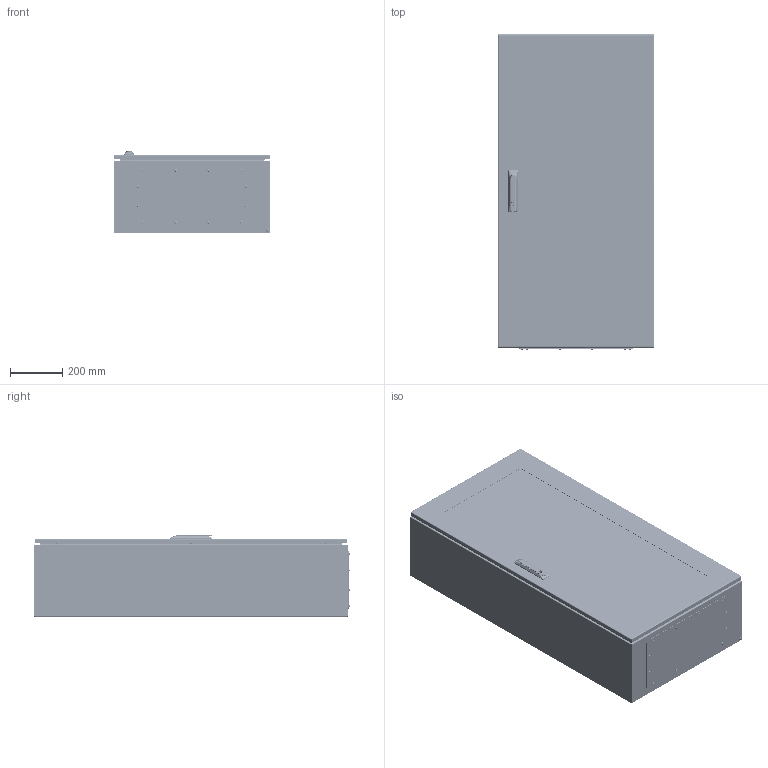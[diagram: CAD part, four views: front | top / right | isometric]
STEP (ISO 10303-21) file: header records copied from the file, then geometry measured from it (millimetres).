
FILE_DESCRIPTION (( 'STEP AP214' ), '1' );
FILE_NAME ('CCV 120.60.30.STEP', '2025-09-19T05:56:53', ( '' ), ( '' ), 'SwSTEP 2.0', 'SolidWorks 2019', '' );
FILE_SCHEMA (( 'AUTOMOTIVE_DESIGN' ));
Length unit declared in the file: millimetre
Products named in the file (36): MPC X.Y Ïàíåëü ìîíòàæíàÿ_MPC 120.60 (2,5); Øïèëüêà çàçåìëåíèÿ Ì6õ17,5_˜¯¨«ìª  § §¥¬«¥­¨ï Œ6å17,5; Essentra_d9.3_055009300003; ÇÀÌÎÊ-ÐÓ×ÊÀ 1413-D53-SS_‡ ªàëâ; Øïèëüêà çàçåìëåíèÿ Ì6õ17,5_˜¯¨«ìª  § §¥¬«¥­¨ï Œ6å17,5 á ª®«¯ çª®¬; Ãàéêà Ì8 DIN 934; CCV X.Y.02.002 栺樏鋋_CCV 120.60; hex flange nut_din_Hexagon Flange Nut DIN 6923 - M6 - N; CCS Y.Z.01.003 Êîðïóñ_ïàíåëü íèæíÿÿ_CCS 60.30; Âñòàâêà ðèãåëÿ S1B4500; Òÿãà ïëîñêàÿ LG006 A=16ìì_120 (‡ ¬®ª-àãçª  1413); pan head cross recess screw_din_DIN EN ISO 7045 - M5 x 6 - Z - 6N; Øïèëüêà Ì6õ13; RG 001-2 Äåðæàòåëü ïëîñêîé òÿãè (ïîëèàìèä); Çàìîê MS8035-1 (1413-D53-RAL7035)_Žâªàëâ; plain washer grade a_din_Washer DIN 125 - A 5.3; pan head cross recess screw_din_DIN EN ISO 7045 - M6 x 16 - Z - 16N; Øïèëüêà Ì8õ25; CCV X.Y.02.001 拟屦黖CCV 120.60; Ïåòëÿ ïðèâàðíàÿ ÷àñòü; KIT_Øòèôò_ô5_Ìîäóëü; CCS X.Y.30(40).01.000ÑÁ Êîðïóñ øêàôà ñâàðíîé_CCS 120.60.30; KIT_Çàæèìíîå êîëüöî_ïîëèîêñèìåòèëåí_ô5_EMKA 1031-U16; Âèíò ðåçüáîâûäàâëèâàþùèé ñ ïîëóïîòàéíîé ãîëîâêîé Ì5õ12; Ïåòëÿ KIT_Ìîäóëü_êîðïóñíàÿ ÷àñòü â ñáîðå; CCS Y.Z.01.002 Êîðïóñ_ïàíåëü âåðõíÿÿ_CCS 60.30; CCV 120.60.30; Ðèãåëü S1B4500 (ïëîñêèé); Essentra_d6,3_1287228; Ïåòëÿ KIT_Ìîäóëü_êîðïóñíàÿ ÷àñòü; hex flange nut_din_Hexagon Flange Nut DIN 6923 - M8 - N; CCV X.Y.02.000蚜 拟屦黖CCV 120.60; PKV Y.22 相礤朦 赅徨朦眍泐 忖钿郷PKV 60.22; CCS X.Y.30(40).01.001 Êîðïóñ_ïàíåëü ñðåäíÿÿ_CCS 120.60.30
Assembly tree (95 placements, depth 3):
  CCV 120.60.30
    CCS X.Y.30(40).01.000ÑÁ Êîðïóñ øêàôà ñâàðíîé_CCS 120.60.30
      CCS X.Y.30(40).01.001 Êîðïóñ_ïàíåëü ñðåäíÿÿ_CCS 120.60.30
      CCS Y.Z.01.003 Êîðïóñ_ïàíåëü íèæíÿÿ_CCS 60.30
      CCS Y.Z.01.002 Êîðïóñ_ïàíåëü âåðõíÿÿ_CCS 60.30
      Øïèëüêà çàçåìëåíèÿ Ì6õ17,5_˜¯¨«ìª  § §¥¬«¥­¨ï Œ6å17,5  x4
      Øïèëüêà Ì8õ25  x6
    Ïåòëÿ KIT_Ìîäóëü_êîðïóñíàÿ ÷àñòü â ñáîðå
      Ïåòëÿ KIT_Ìîäóëü_êîðïóñíàÿ ÷àñòü
      KIT_Øòèôò_ô5_Ìîäóëü
      KIT_Çàæèìíîå êîëüöî_ïîëèîêñèìåòèëåí_ô5_EMKA 1031-U16
    Ïåòëÿ KIT_Ìîäóëü_êîðïóñíàÿ ÷àñòü â ñáîðå
      Ïåòëÿ KIT_Ìîäóëü_êîðïóñíàÿ ÷àñòü
      KIT_Øòèôò_ô5_Ìîäóëü
      KIT_Çàæèìíîå êîëüöî_ïîëèîêñèìåòèëåí_ô5_EMKA 1031-U16
    Ïåòëÿ KIT_Ìîäóëü_êîðïóñíàÿ ÷àñòü â ñáîðå
      Ïåòëÿ KIT_Ìîäóëü_êîðïóñíàÿ ÷àñòü
      KIT_Øòèôò_ô5_Ìîäóëü
      KIT_Çàæèìíîå êîëüöî_ïîëèîêñèìåòèëåí_ô5_EMKA 1031-U16
    CCV X.Y.02.000蚜 拟屦黖CCV 120.60
      CCV X.Y.02.001 拟屦黖CCV 120.60
      Øïèëüêà çàçåìëåíèÿ Ì6õ17,5_˜¯¨«ìª  § §¥¬«¥­¨ï Œ6å17,5 á ª®«¯ çª®¬
      Øïèëüêà Ì6õ13  x4
      CCV X.Y.02.002 栺樏鋋_CCV 120.60
      Ïåòëÿ ïðèâàðíàÿ ÷àñòü  x3
    MPC X.Y Ïàíåëü ìîíòàæíàÿ_MPC 120.60 (2,5)
    pan head cross recess screw_din_DIN EN ISO 7045 - M5 x 6 - Z - 6N  x3
    plain washer grade a_din_Washer DIN 125 - A 5.3  x3
    Ãàéêà Ì8 DIN 934  x6
    hex flange nut_din_Hexagon Flange Nut DIN 6923 - M8 - N  x6
    Essentra_d9.3_055009300003
    Essentra_d6,3_1287228  x3
    PKV Y.22 相礤朦 赅徨朦眍泐 忖钿郷PKV 60.22
    Âèíò ðåçüáîâûäàâëèâàþùèé ñ ïîëóïîòàéíîé ãîëîâêîé Ì5õ12  x12
    hex flange nut_din_Hexagon Flange Nut DIN 6923 - M6 - N  x8
    pan head cross recess screw_din_DIN EN ISO 7045 - M6 x 16 - Z - 16N  x4
    RG 001-2 Äåðæàòåëü ïëîñêîé òÿãè (ïîëèàìèä)  x4
    Òÿãà ïëîñêàÿ LG006 A=16ìì_120 (‡ ¬®ª-àãçª  1413)  x2
    ÇÀÌÎÊ-ÐÓ×ÊÀ 1413-D53-SS_‡ ªàëâ
      Çàìîê MS8035-1 (1413-D53-RAL7035)_Žâªàëâ
      Ðèãåëü S1B4500 (ïëîñêèé)
      Âñòàâêà ðèãåëÿ S1B4500
Bounding box: 600 x 1207.22 x 313.79 mm (x, y, z)
Volume: 6961154.7 mm3; surface area: 7048394.8 mm2
Topology: 124 solids, 124 shells, 8564 faces, 21214 edges, 12818 vertices
Faces by surface type: cylinder 3252, plane 2383, bspline 1022, torus 759, cone 698, sphere 450
Entity records: 250116 total; most frequent: CARTESIAN_POINT 120746, ORIENTED_EDGE 28144, DIRECTION 24620, EDGE_CURVE 14072, AXIS2_PLACEMENT_3D 9473, VERTEX_POINT 8647, EDGE_LOOP 5939, LINE 5674
